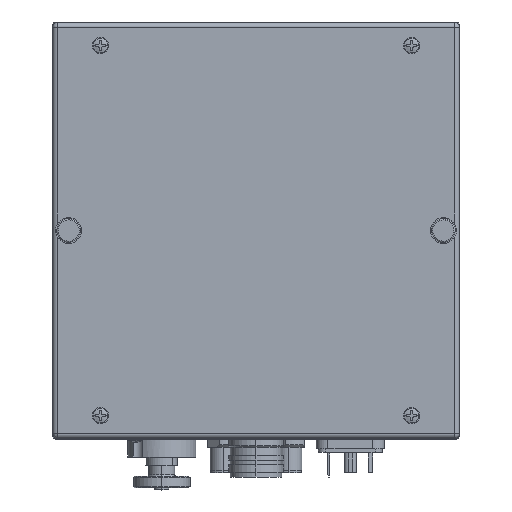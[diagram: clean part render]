
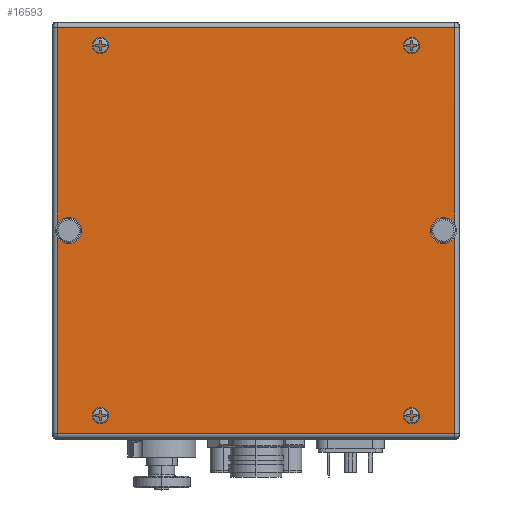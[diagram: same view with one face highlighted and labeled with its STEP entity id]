
A CAD part, top view. The second image highlights one B-rep face of the part: STEP entity #16593.
In plain terms, the highlighted planar face has unit normal (0, 0, 1).
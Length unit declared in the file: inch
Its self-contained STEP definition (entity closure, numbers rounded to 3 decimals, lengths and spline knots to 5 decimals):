
#16243=DIRECTION('',(-1.,0.,0.));
#16244=VECTOR('',#16243,6.6342);
#16245=CARTESIAN_POINT('',(3.3171,3.39584,4.77795));
#16246=LINE('',#16245,#16244);
#16269=DIRECTION('',(0.,1.,0.));
#16270=VECTOR('',#16269,3.28697);
#16271=CARTESIAN_POINT('',(3.3171,0.10887,
4.77795));
#16272=LINE('',#16271,#16270);
#16277=DIRECTION('',(0.,1.,0.));
#16278=VECTOR('',#16277,3.28697);
#16279=CARTESIAN_POINT('',(3.3171,-3.39584,
4.77795));
#16280=LINE('',#16279,#16278);
#16288=CARTESIAN_POINT('',(3.12992,0.,4.77795));
#16289=DIRECTION('',(0.,0.,1.));
#16290=DIRECTION('',(0.864,0.503,0.));
#16291=AXIS2_PLACEMENT_3D('',#16288,#16289,#16290);
#16293=CARTESIAN_POINT('',(3.12992,0.,4.77795));
#16294=DIRECTION('',(0.,0.,1.));
#16295=DIRECTION('',(-1.,0.,0.));
#16296=AXIS2_PLACEMENT_3D('',#16293,#16294,#16295);
#16298=CARTESIAN_POINT('',(-3.12992,0.,4.77795));
#16299=DIRECTION('',(0.,0.,1.));
#16300=DIRECTION('',(-0.864,-0.503,0.));
#16301=AXIS2_PLACEMENT_3D('',#16298,#16299,#16300);
#16303=CARTESIAN_POINT('',(-3.12992,0.,4.77795));
#16304=DIRECTION('',(0.,0.,1.));
#16305=DIRECTION('',(1.,0.,0.));
#16306=AXIS2_PLACEMENT_3D('',#16303,#16304,#16305);
#16312=DIRECTION('',(1.,0.,0.));
#16313=VECTOR('',#16312,6.6342);
#16314=CARTESIAN_POINT('',(-3.3171,-3.39584,
4.77795));
#16315=LINE('',#16314,#16313);
#16351=CARTESIAN_POINT('',(-3.3171,0.10887,
4.77795));
#16365=DIRECTION('',(0.,-1.,0.));
#16366=VECTOR('',#16365,3.28697);
#16367=CARTESIAN_POINT('',(-3.3171,-0.10887,
4.77795));
#16368=LINE('',#16367,#16366);
#16373=DIRECTION('',(0.,-1.,0.));
#16374=VECTOR('',#16373,3.28697);
#16375=CARTESIAN_POINT('',(-3.3171,3.39584,
4.77795));
#16376=LINE('',#16375,#16374);
#16430=VERTEX_POINT('',#16351);
#16432=CARTESIAN_POINT('',(-2.91339,0.,4.77795));
#16433=VERTEX_POINT('',#16432);
#16434=CARTESIAN_POINT('',(-3.3171,-0.10887,
4.77795));
#16435=VERTEX_POINT('',#16434);
#16436=CARTESIAN_POINT('',(3.3171,0.10887,
4.77795));
#16437=CARTESIAN_POINT('',(2.91339,0.,4.77795));
#16438=VERTEX_POINT('',#16436);
#16439=VERTEX_POINT('',#16437);
#16440=CARTESIAN_POINT('',(3.3171,-0.10887,
4.77795));
#16441=VERTEX_POINT('',#16440);
#16442=CARTESIAN_POINT('',(3.3171,-3.39584,
4.77795));
#16443=VERTEX_POINT('',#16442);
#16444=CARTESIAN_POINT('',(-3.3171,-3.39584,
4.77795));
#16445=VERTEX_POINT('',#16444);
#16446=CARTESIAN_POINT('',(-3.3171,3.39584,
4.77795));
#16447=VERTEX_POINT('',#16446);
#16448=CARTESIAN_POINT('',(3.3171,3.39584,4.77795));
#16449=VERTEX_POINT('',#16448);
#16569=CARTESIAN_POINT('',(0.,0.,4.77795));
#16570=DIRECTION('',(0.,0.,1.));
#16571=DIRECTION('',(1.,0.,0.));
#16572=AXIS2_PLACEMENT_3D('',#16569,#16570,#16571);
#16573=PLANE('',#16572);
#16575=ORIENTED_EDGE('',*,*,#16574,.T.);
#16577=ORIENTED_EDGE('',*,*,#16576,.T.);
#16578=ORIENTED_EDGE('',*,*,#16562,.F.);
#16580=ORIENTED_EDGE('',*,*,#16579,.F.);
#16582=ORIENTED_EDGE('',*,*,#16581,.F.);
#16584=ORIENTED_EDGE('',*,*,#16583,.T.);
#16586=ORIENTED_EDGE('',*,*,#16585,.T.);
#16588=ORIENTED_EDGE('',*,*,#16587,.F.);
#16589=ORIENTED_EDGE('',*,*,#16528,.F.);
#16590=ORIENTED_EDGE('',*,*,#16555,.F.);
#16591=EDGE_LOOP('',(#16575,#16577,#16578,#16580,#16582,#16584,#16586,#16588,
#16589,#16590));
#16592=FACE_OUTER_BOUND('',#16591,.F.);
#16593=ADVANCED_FACE('',(#16592),#16573,.T.);
#16292=CIRCLE('',#16291,0.21654);
#16297=CIRCLE('',#16296,0.21654);
#16302=CIRCLE('',#16301,0.21654);
#16307=CIRCLE('',#16306,0.21654);
#16528=EDGE_CURVE('',#16449,#16447,#16246,.T.);
#16555=EDGE_CURVE('',#16438,#16449,#16272,.T.);
#16562=EDGE_CURVE('',#16443,#16441,#16280,.T.);
#16574=EDGE_CURVE('',#16438,#16439,#16292,.T.);
#16576=EDGE_CURVE('',#16439,#16441,#16297,.T.);
#16579=EDGE_CURVE('',#16445,#16443,#16315,.T.);
#16581=EDGE_CURVE('',#16435,#16445,#16368,.T.);
#16583=EDGE_CURVE('',#16435,#16433,#16302,.T.);
#16585=EDGE_CURVE('',#16433,#16430,#16307,.T.);
#16587=EDGE_CURVE('',#16447,#16430,#16376,.T.);
